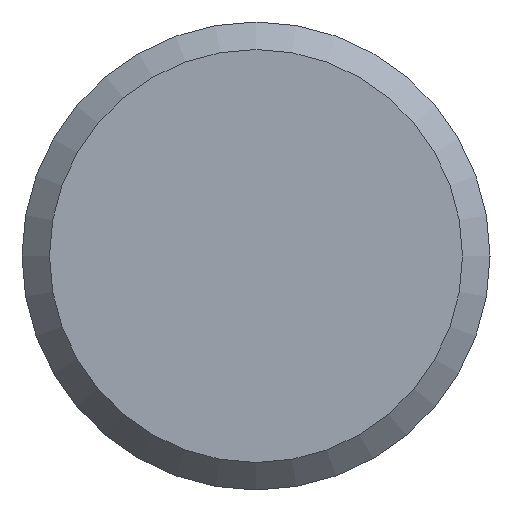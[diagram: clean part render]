
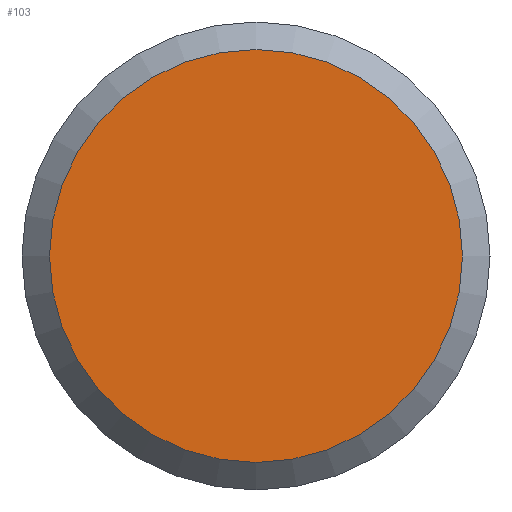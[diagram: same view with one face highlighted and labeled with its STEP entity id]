
A CAD part, left-side view. The second image highlights one B-rep face of the part: STEP entity #103.
In plain terms, the highlighted planar face has unit normal (-1, 0, 0).
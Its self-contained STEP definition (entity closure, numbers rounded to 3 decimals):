
#16=PLANE('',#138);
#30=FACE_OUTER_BOUND('',#36,.T.);
#36=EDGE_LOOP('',(#89));
#45=CIRCLE('',#137,7.5);
#53=VERTEX_POINT('',#197);
#65=EDGE_CURVE('',#53,#53,#45,.T.);
#89=ORIENTED_EDGE('',*,*,#65,.F.);
#103=ADVANCED_FACE('',(#30),#16,.F.);
#137=AXIS2_PLACEMENT_3D('',#199,#170,#171);
#138=AXIS2_PLACEMENT_3D('',#200,#172,#173);
#170=DIRECTION('center_axis',(1.,0.,0.));
#171=DIRECTION('ref_axis',(0.,-1.,0.));
#172=DIRECTION('center_axis',(1.,0.,0.));
#173=DIRECTION('ref_axis',(0.,0.,-1.));
#197=CARTESIAN_POINT('',(0.,7.5,0.));
#199=CARTESIAN_POINT('Origin',(0.,0.,0.));
#200=CARTESIAN_POINT('Origin',(0.,0.,0.));
